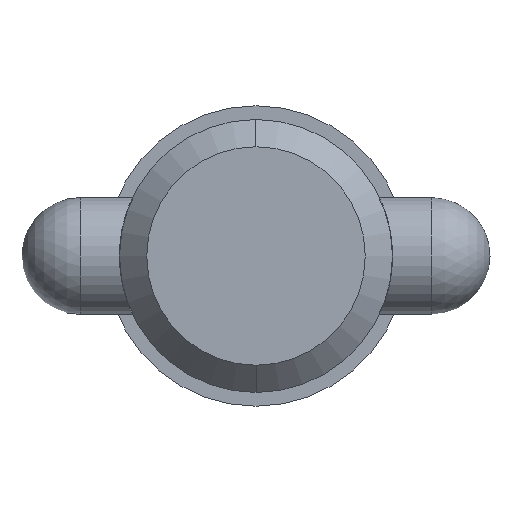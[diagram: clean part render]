
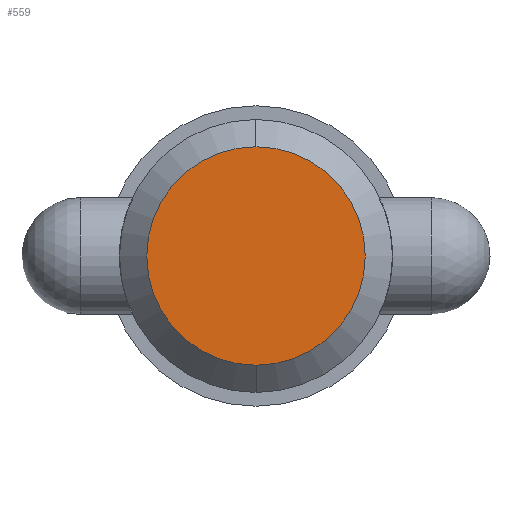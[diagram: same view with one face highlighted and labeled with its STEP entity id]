
A CAD part, left-side view. The second image highlights one B-rep face of the part: STEP entity #559.
In plain terms, the highlighted planar face has unit normal (-1, 0, 0).
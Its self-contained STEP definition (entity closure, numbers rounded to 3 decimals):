
#7 = DIRECTION ( 'NONE',  ( 1., 0., 0. ) ) ;
#33 = DIRECTION ( 'NONE',  ( 0., 0., 1. ) ) ;
#42 = CARTESIAN_POINT ( 'NONE',  ( 0., 0., -8.892 ) ) ;
#46 = CARTESIAN_POINT ( 'NONE',  ( 0., 0., 0. ) ) ;
#133 = CARTESIAN_POINT ( 'NONE',  ( 0., 0., 0. ) ) ;
#141 = AXIS2_PLACEMENT_3D ( 'NONE', #445, #7, #421 ) ;
#150 = ORIENTED_EDGE ( 'NONE', *, *, #720, .F. ) ;
#219 = AXIS2_PLACEMENT_3D ( 'NONE', #133, #474, #788 ) ;
#285 = CIRCLE ( 'NONE', #141, 8.892 ) ;
#386 = FACE_OUTER_BOUND ( 'NONE', #923, .T. ) ;
#421 = DIRECTION ( 'NONE',  ( 0., 0., -1. ) ) ;
#445 = CARTESIAN_POINT ( 'NONE',  ( 0., 0., 0. ) ) ;
#461 = DIRECTION ( 'NONE',  ( -1., 0., 0. ) ) ;
#466 = AXIS2_PLACEMENT_3D ( 'NONE', #46, #461, #33 ) ;
#474 = DIRECTION ( 'NONE',  ( 1., 0., 0. ) ) ;
#478 = ORIENTED_EDGE ( 'NONE', *, *, #998, .F. ) ;
#513 = CIRCLE ( 'NONE', #219, 8.892 ) ;
#559 = ADVANCED_FACE ( 'NONE', ( #386 ), #705, .T. ) ;
#595 = VERTEX_POINT ( 'NONE', #42 ) ;
#705 = PLANE ( 'NONE',  #466 ) ;
#720 = EDGE_CURVE ( 'NONE', #988, #595, #513, .T. ) ;
#754 = CARTESIAN_POINT ( 'NONE',  ( 0., 0., 8.892 ) ) ;
#788 = DIRECTION ( 'NONE',  ( 0., 0., -1. ) ) ;
#923 = EDGE_LOOP ( 'NONE', ( #478, #150 ) ) ;
#988 = VERTEX_POINT ( 'NONE', #754 ) ;
#998 = EDGE_CURVE ( 'NONE', #595, #988, #285, .T. ) ;
